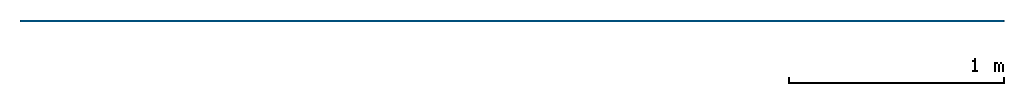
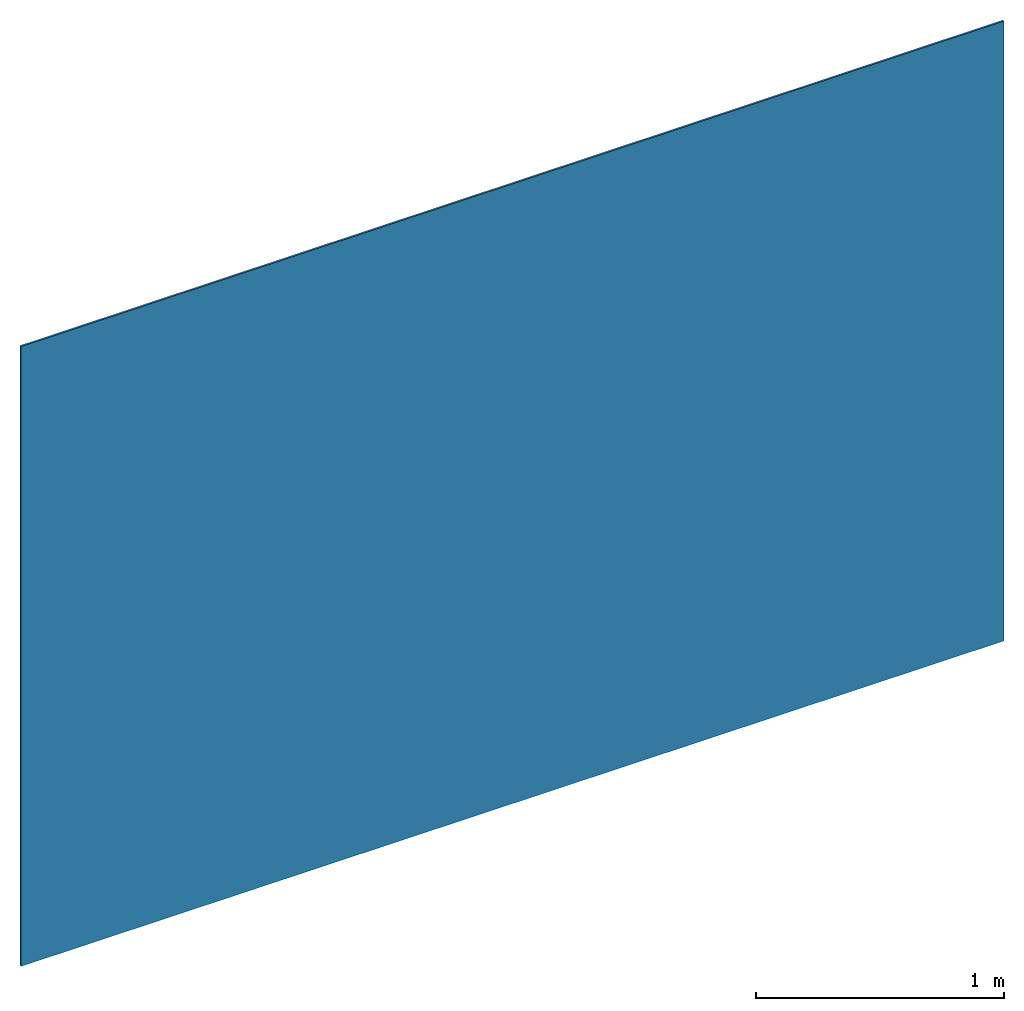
# One storey: 1 wall.
"""IFC4 model written with IfcOpenShell, lengths in metres."""

from ifc_helpers import new_model, si_unit, frame, origin_with_axes, place, context, project, spatial, polyline, outline, extrude, element, save


model = new_model("IFC4")

# Units and contexts
model_context = context("Model", 3, precision=1e-05, world=origin_with_axes())
ifc_project = project(units=[si_unit("LENGTHUNIT", "METRE"), si_unit("AREAUNIT", "SQUARE_METRE"), si_unit("VOLUMEUNIT", "CUBIC_METRE")], contexts=[model_context])

# Storey
storey = spatial("IfcBuildingStorey", Name="Ground Floor", CompositionType="ELEMENT", Elevation=0.0)

# Wall
wall_placement = place(None, origin_with_axes())
element("IfcWall", 1, at=wall_placement, inside=storey, Name="Standard Wall", context=model_context, shape_type="SweptSolid", body=[
    extrude(outline(polyline([(0.0, 0.0), (4.572, 0.0), (4.572, 0.009), (0.0, 0.009), (0.0, 0.0)])), frame((0.0, 0.0, 0.0), z_axis=(0.0, 0.0, 1.0)), (0.0, 0.0, 1.0), 3.048),
])

save(model, "model.ifc")
